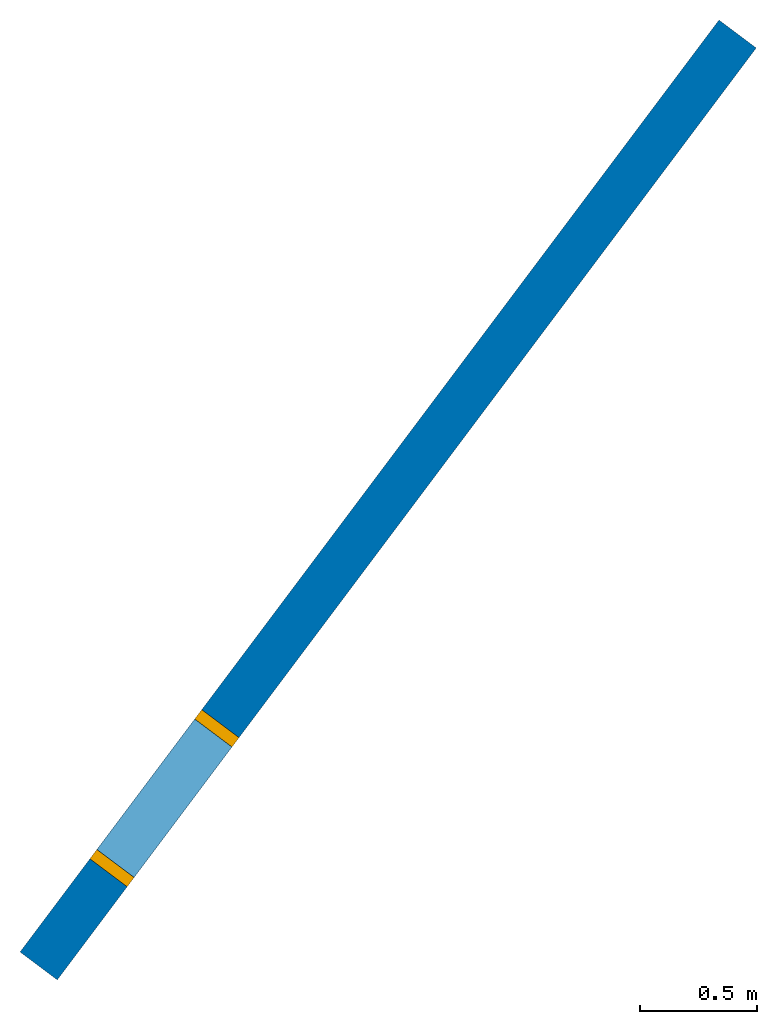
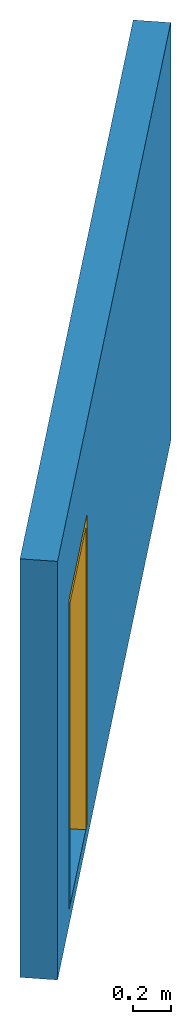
# One storey: 1 door, 1 wall, 1 opening.
"""IFC4 building model written with IfcOpenShell, lengths in metres."""

from ifc_helpers import new_model, si_unit, frame, origin_with_axes, place, context, subcontext, project, spatial, polyline, outline, extrude, material, type_object, element, fill, save


model = new_model("IFC4")

# Units and contexts
model_context = context("Model", 3, precision=1e-07, world=origin_with_axes())
body_context = subcontext(model_context, "Body", "Model", "MODEL_VIEW")
ifc_project = project(units=[si_unit("LENGTHUNIT", "METRE"), si_unit("AREAUNIT", "SQUARE_METRE"), si_unit("VOLUMEUNIT", "CUBIC_METRE")], contexts=[model_context])

# Site, building, storey
site_placement = place(None, origin_with_axes())
site = spatial("IfcSite", under=ifc_project, at=site_placement, Name="3117 Site", CompositionType="ELEMENT")
building_placement = place(site_placement, origin_with_axes())
building = spatial("IfcBuilding", under=site, at=building_placement, Name="3117 ปริมาณและ IFC", CompositionType="ELEMENT")
storey_placement = place(building_placement, frame((0.0, 0.0, -3.0), z_axis=(0.0, 0.0, 1.0), x_axis=(1.0, 0.0, 0.0)))
storey = spatial("IfcBuildingStorey", under=building, at=storey_placement, Name="B01", CompositionType="ELEMENT", Elevation=-3.0)

# Wall, opening, door
ifc_material = material(Name="Concrete")
wall_type = type_object("IfcWallType", Name="W200", PredefinedType="STANDARD", material=ifc_material)
wall_placement = place(storey_placement, frame((0.0, 6.0, 0.1), z_axis=(0.0, 0.0, 1.0), x_axis=(0.6, 0.8, 0.0)))
wall = element("IfcWall", 1, at=wall_placement, inside=storey, type_object=wall_type, Name="Diagonal basement", PredefinedType="STANDARD", context=body_context, shape_type="SweptSolid", body=[
    extrude(outline(polyline([(0.0, 0.0), (5.0, 0.0), (5.0, 0.2), (0.0, 0.2), (0.0, 0.0)])), origin_with_axes(), (0.0, 0.0, 1.0), 2.7),
])
opening_placement = place(wall_placement, frame((0.5, -1e-06, 0.1), z_axis=(0.0, 0.0, 1.0), x_axis=(1.0, 0.0, 0.0)))
opening = element("IfcOpeningElement", 2, at=opening_placement, cuts=wall, Name="Opening — Basement door", PredefinedType="OPENING", context=body_context, shape_type="SweptSolid", body=[
    extrude(outline(polyline([(0.0, 0.0), (0.8, 0.0), (0.8, 0.200002), (0.0, 0.200002), (0.0, 0.0)])), origin_with_axes(), (0.0, 0.0, 1.0), 2.0),
])
door_placement = place(opening_placement, frame((0.0, 1e-06, 0.0), z_axis=(0.0, 0.0, 1.0), x_axis=(1.0, 0.0, 0.0)))
door = element("IfcDoor", 3, at=door_placement, inside=storey, Name="Basement door", OperationType="NOTDEFINED", OverallHeight=2.0, OverallWidth=0.8, PredefinedType="DOOR", context=body_context, shape_type="SweptSolid", body=[
    extrude(outline(polyline([(0.0, 0.0), (0.05, 0.0), (0.05, 0.2), (0.0, 0.2), (0.0, 0.0)])), origin_with_axes(), (0.0, 0.0, 1.0), 1.95),
    extrude(outline(polyline([(0.0, 0.0), (0.05, 0.0), (0.05, 0.2), (0.0, 0.2), (0.0, 0.0)])), frame((0.75, 0.0, 0.0), z_axis=(0.0, 0.0, 1.0), x_axis=(1.0, 0.0, 0.0)), (0.0, 0.0, 1.0), 1.95),
    extrude(outline(polyline([(0.0, 0.0), (0.8, 0.0), (0.8, 0.2), (0.0, 0.2), (0.0, 0.0)])), frame((0.0, 0.0, 1.95), z_axis=(0.0, 0.0, 1.0), x_axis=(1.0, 0.0, 0.0)), (0.0, 0.0, 1.0), 0.05),
])
fill(opening, door)

save(model, "model.ifc")
